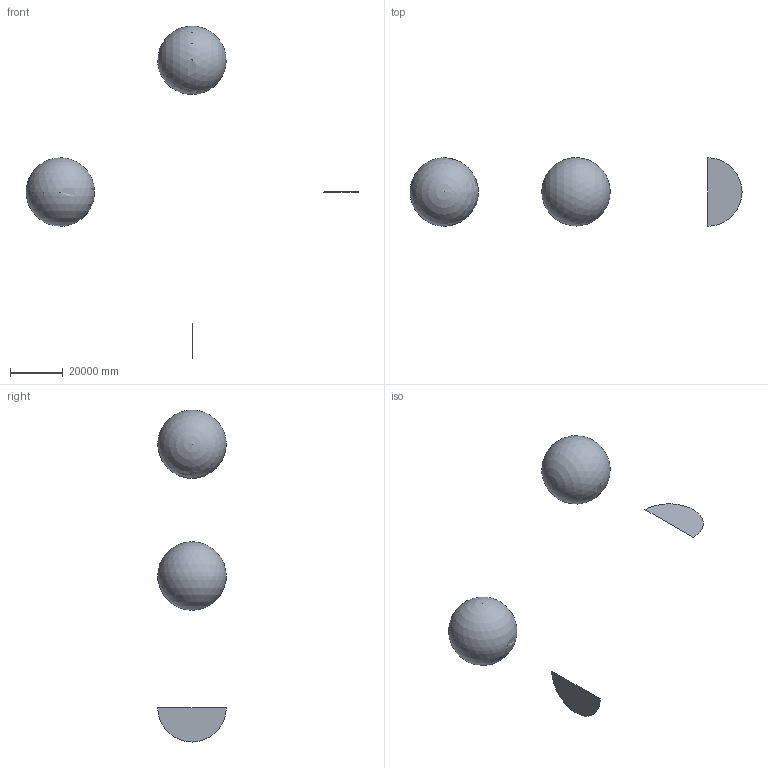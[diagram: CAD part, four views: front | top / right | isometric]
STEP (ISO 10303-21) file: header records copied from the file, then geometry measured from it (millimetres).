
FILE_DESCRIPTION (( 'STEP AP203' ), '1' );
FILE_NAME ('GEO_04_Geodesic_Biosphere_Spheres.STEP', '2026-10-29T18:07:48', ( 'user' ), ( '' ), 'SwSTEP 2.0', 'SolidWorks 2026', '' );
FILE_SCHEMA (( 'CONFIG_CONTROL_DESIGN' ));
Length unit declared in the file: inch
Products named in the file (1): GEO_04_Geodesic_Biosphere_Spheres
Bounding box: 126000 x 26000 x 126000 mm (x, y, z)
Volume: 18405544159305.3 mm3; surface area: 6371149901.4 mm2
Topology: 4 solids, 4 shells, 12 faces, 18 edges, 12 vertices
Faces by surface type: plane 8, sphere 4
Entity records: 297 total; most frequent: DIRECTION 46, CARTESIAN_POINT 33, ORIENTED_EDGE 24, AXIS2_PLACEMENT_3D 21, FACE_OUTER_BOUND 12, ADVANCED_FACE 12, EDGE_CURVE 12, EDGE_LOOP 12
